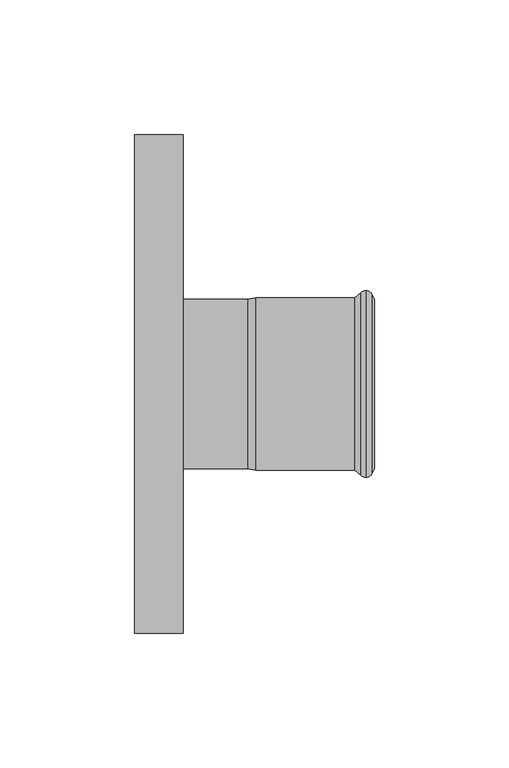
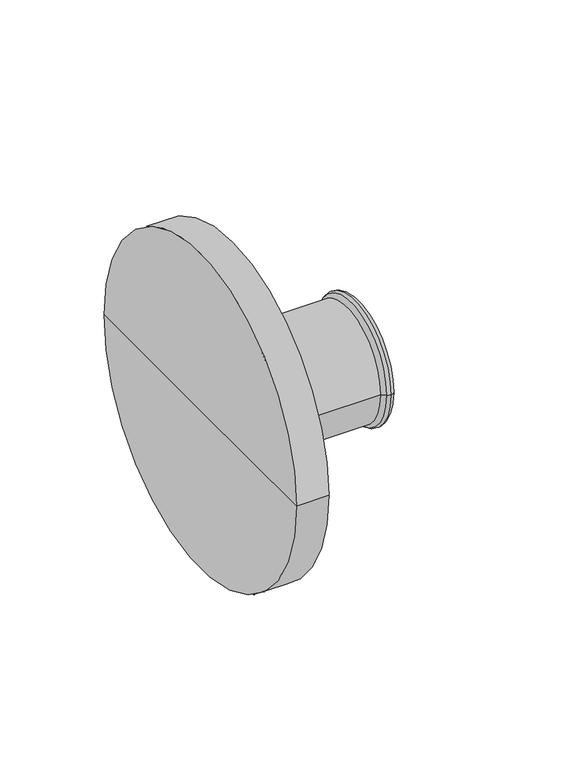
"""IFC4 building model written with IfcOpenShell, lengths in millimetres: pipe fitting geometry, KAN-therm Steel kołnierz PN16 : KAN-therm Steel kołnierz PN16."""

from ifc_helpers import new_model, si_unit, point, frame, origin, place, context, project, spatial, polyline, circle_curve, ellipse_curve, trimmed, source, transform, mapped, element, save
from ifc_brep_helpers import plane_surface, cylinder_surface, revolved_surface, advanced_brep


def pipe_fitting_27f88213(model_context):
    return source(origin(), model_context, "Body", "AdvancedBrep", [
        advanced_brep(
        [(84.0922627, -33.9370225, 0.0), (84.0922627, 33.9370225, 0.0), (85.8921278, 34.625, 0.0), (85.8921278, -34.625, 0.0), (81.7838092, -32.0, 0.0), (81.7838092, 32.0, 0.0), (45.1180407, -32.0, 0.0), (45.1180407, 32.0, 0.0), (42.2, -31.4, 0.0), (42.2, 31.4, 0.0), (18.0, -31.4, 0.0), (18.0, 31.4, 0.0), (89.0, -31.2880302, 0.0), (89.0, 31.2880302, 0.0), (89.0, 0.0, 0.0), (88.432052, -32.8484544, 0.0), (88.432052, 32.8484544, 0.0), (0.0, 0.0, 0.0), (0.0, 92.5, 0.0), (0.0, -92.5, 0.0), (18.0, 92.5, 0.0), (18.0, -92.5, 0.0)],
        [
            (0, 1, circle_curve(frame((84.0922627, 0.0, 0.0), z_axis=(1.0, 0.0, 0.0), x_axis=(0.0, 1.0, 0.0)), 33.9370225)),
            (1, 2, circle_curve(frame((85.8935049, 31.9230333, 0.0), z_axis=(0.0, 0.0, -1.0), x_axis=(1.0, 0.0, 0.0)), 2.701967)),
            (2, 3, circle_curve(frame((85.8921278, 0.0, 0.0), z_axis=(-1.0, 0.0, 0.0), x_axis=(0.0, 1.0, 0.0)), 34.625)),
            (3, 0, circle_curve(frame((85.8935049, -31.9230333, 0.0), z_axis=(0.0, 0.0, -1.0), x_axis=(1.0, 0.0, 0.0)), 2.701967)),
            (1, 0, circle_curve(frame((84.0922627, 0.0, 0.0), z_axis=(1.0, 0.0, 0.0), x_axis=(0.0, 1.0, 0.0)), 33.9370225)),
            (3, 2, circle_curve(frame((85.8921278, 0.0, 0.0), z_axis=(-1.0, 0.0, 0.0), x_axis=(0.0, 1.0, 0.0)), 34.625)),
            (4, 5, circle_curve(frame((81.7838092, 0.0, 0.0), z_axis=(1.0, 0.0, 0.0), x_axis=(0.0, 1.0, 0.0)), 32.0)),
            (5, 1),
            (0, 4),
            (5, 4, circle_curve(frame((81.7838092, 0.0, 0.0), z_axis=(1.0, 0.0, 0.0), x_axis=(0.0, 1.0, 0.0)), 32.0)),
            (6, 7, circle_curve(frame((45.1180407, 0.0, 0.0), z_axis=(1.0, 0.0, 0.0), x_axis=(0.0, 1.0, 0.0)), 32.0)),
            (7, 5),
            (4, 6),
            (7, 6, circle_curve(frame((45.1180407, 0.0, 0.0), z_axis=(1.0, 0.0, 0.0), x_axis=(0.0, 1.0, 0.0)), 32.0)),
            (8, 9, circle_curve(frame((42.2, 0.0, 0.0), z_axis=(1.0, 0.0, 0.0), x_axis=(0.0, 1.0, 0.0)), 31.4)),
            (9, 7),
            (6, 8),
            (9, 8, circle_curve(frame((42.2, 0.0, 0.0), z_axis=(1.0, 0.0, 0.0), x_axis=(0.0, 1.0, 0.0)), 31.4)),
            (10, 11, circle_curve(frame((18.0, 0.0, 0.0), z_axis=(1.0, 0.0, 0.0), x_axis=(0.0, 1.0, 0.0)), 31.4)),
            (11, 9),
            (8, 10),
            (11, 10, circle_curve(frame((18.0, 0.0, 0.0), z_axis=(1.0, 0.0, 0.0), x_axis=(0.0, 1.0, 0.0)), 31.4)),
            (12, 13, circle_curve(frame((89.0, 0.0, 0.0), z_axis=(1.0, 0.0, 0.0), x_axis=(0.0, 1.0, 0.0)), 31.2880302)),
            (13, 14),
            (14, 12),
            (13, 12, circle_curve(frame((89.0, 0.0, 0.0), z_axis=(1.0, 0.0, 0.0), x_axis=(0.0, 1.0, 0.0)), 31.2880302)),
            (15, 16, circle_curve(frame((88.432052, 0.0, 0.0), z_axis=(1.0, 0.0, 0.0), x_axis=(0.0, 1.0, 0.0)), 32.8484544)),
            (16, 13),
            (12, 15),
            (16, 15, circle_curve(frame((88.432052, 0.0, 0.0), z_axis=(1.0, 0.0, 0.0), x_axis=(0.0, 1.0, 0.0)), 32.8484544)),
            (2, 16, circle_curve(frame((85.89488, 31.9249993, 0.0), z_axis=(0.0, 0.0, -1.0), x_axis=(1.0, 0.0, 0.0)), 2.7000021)),
            (15, 3, circle_curve(frame((85.89488, -31.9249993, 0.0), z_axis=(0.0, 0.0, -1.0), x_axis=(1.0, 0.0, 0.0)), 2.7000021)),
            (17, 18),
            (18, 19, circle_curve(frame((0.0, 0.0, 0.0), z_axis=(-1.0, 0.0, 0.0), x_axis=(0.0, 1.0, 0.0)), 92.5)),
            (19, 17),
            (19, 18, circle_curve(frame((0.0, 0.0, 0.0), z_axis=(-1.0, 0.0, 0.0), x_axis=(0.0, 1.0, 0.0)), 92.5)),
            (18, 20),
            (20, 21, circle_curve(frame((18.0, 0.0, 0.0), z_axis=(-1.0, 0.0, 0.0), x_axis=(0.0, 1.0, 0.0)), 92.5)),
            (21, 19),
            (21, 20, circle_curve(frame((18.0, 0.0, 0.0), z_axis=(-1.0, 0.0, 0.0), x_axis=(0.0, 1.0, 0.0)), 92.5)),
            (20, 11),
            (10, 21),
        ],
        [
            revolved_surface(trimmed(ellipse_curve(frame((85.8935049, 31.9230333, 0.0), z_axis=(0.0, 0.0, 1.0), x_axis=(1.0, 0.0, 0.0)), 2.701967, 2.701967), [point((85.8921278, 34.625, 0.0))], [point((84.0922627, 33.9370225, 0.0))], True, "CARTESIAN"), (1402.742668, 0.0, 0.0), (-1.0, 0.0, 0.0)),
            revolved_surface(polyline([(84.0922627, 33.9370225, 0.0), (81.7838092, 32.0, 0.0)]), (1402.742668, 0.0, 0.0), (-1.0, 0.0, 0.0)),
            cylinder_surface(frame((1402.742668, 0.0, 0.0), z_axis=(-1.0, 0.0, 0.0), x_axis=(0.0, 1.0, 0.0)), 32.0),
            revolved_surface(polyline([(45.1180407, 32.0, 0.0), (42.2, 31.4, 0.0)]), (1402.742668, 0.0, 0.0), (-1.0, 0.0, 0.0)),
            cylinder_surface(frame((1402.742668, 0.0, 0.0), z_axis=(-1.0, 0.0, 0.0), x_axis=(0.0, 1.0, 0.0)), 31.4),
            plane_surface(frame((89.0, 0.0, 0.0), z_axis=(1.0, 0.0, 0.0), x_axis=(0.0, 1.0, 0.0))),
            revolved_surface(polyline([(89.0, 31.2880302, 0.0), (88.432052, 32.8484544, 0.0)]), (1402.742668, 0.0, 0.0), (-1.0, 0.0, 0.0)),
            revolved_surface(trimmed(ellipse_curve(frame((85.89488, 31.9249993, 0.0), z_axis=(0.0, 0.0, 1.0), x_axis=(1.0, 0.0, 0.0)), 2.7000021, 2.7000021), [point((88.432052, 32.8484544, 0.0))], [point((85.8921278, 34.625, 0.0))], True, "CARTESIAN"), (1402.742668, 0.0, 0.0), (-1.0, 0.0, 0.0)),
            plane_surface(frame((0.0, 0.0, 0.0), z_axis=(-1.0, 0.0, 0.0), x_axis=(0.0, 1.0, 0.0))),
            cylinder_surface(frame((1402.742668, 0.0, 0.0), z_axis=(-1.0, 0.0, 0.0), x_axis=(0.0, 1.0, 0.0)), 92.5),
            plane_surface(frame((18.0, 0.0, 0.0), z_axis=(1.0, 0.0, 0.0), x_axis=(0.0, 1.0, 0.0))),
        ],
        [
            (0, [[1, 2, 3, 4]]),
            (0, [[5, -4, 6, -2]]),
            (1, [[7, 8, -1, 9]]),
            (1, [[10, -9, -5, -8]]),
            (2, [[11, 12, -7, 13]]),
            (2, [[14, -13, -10, -12]]),
            (3, [[15, 16, -11, 17]]),
            (3, [[18, -17, -14, -16]]),
            (4, [[19, 20, -15, 21]]),
            (4, [[22, -21, -18, -20]]),
            (5, [[23, 24, 25]]),
            (5, [[26, -25, -24]]),
            (6, [[27, 28, -23, 29]]),
            (6, [[30, -29, -26, -28]]),
            (7, [[-3, 31, -27, 32]]),
            (7, [[-6, -32, -30, -31]]),
            (8, [[33, 34, 35]]),
            (8, [[-35, 36, -33]]),
            (9, [[-34, 37, 38, 39]]),
            (9, [[-36, -39, 40, -37]]),
            (10, [[-38, 41, -19, 42]]),
            (10, [[-40, -42, -22, -41]]),
        ],
    ),
    ])


if __name__ == "__main__":
    model = new_model("IFC4")
    model_context = context("Model", 3, world=origin())
    ifc_project = project(units=[si_unit("LENGTHUNIT", "METRE", prefix="MILLI")], contexts=[model_context])
    site = spatial("IfcSite", under=ifc_project)
    building = spatial("IfcBuilding", under=site)
    placement = place(None, origin())
    pipe_fitting_shape = pipe_fitting_27f88213(model_context)
    element("IfcPipeFitting", 1, ObjectType="KAN-therm Steel kołnierz PN16 : KAN-therm Steel kołnierz PN16", at=placement, inside=building, context=model_context, shape_type="MappedRepresentation", body=[
        mapped(pipe_fitting_shape, transform((0.0, 0.0, 0.0), x_axis=(1.0, 0.0, 0.0), y_axis=(0.0, 1.0, 0.0), z_axis=(0.0, 0.0, 1.0))),
    ])
    save(model, "model.ifc")
